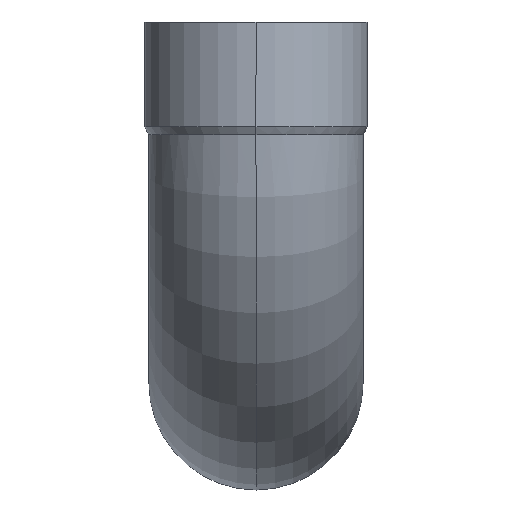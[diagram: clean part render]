
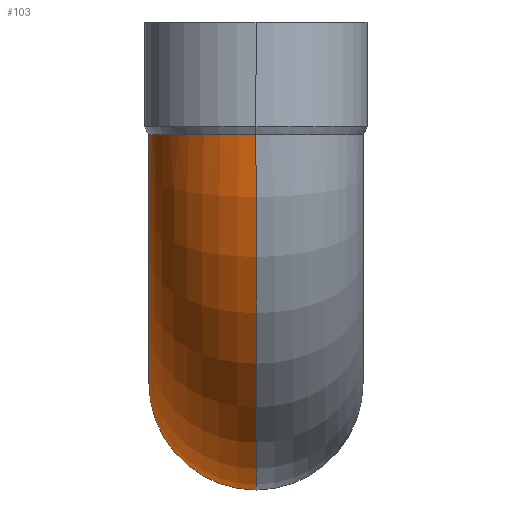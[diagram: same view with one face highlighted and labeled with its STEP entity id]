
A CAD part, left-side view. The second image highlights one B-rep face of the part: STEP entity #103.
In plain terms, the highlighted toroidal (fillet/blend) face has major radius 91.3 mm and minor radius 38 mm.
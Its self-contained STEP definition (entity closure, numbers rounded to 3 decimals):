
#44=CARTESIAN_POINT('',(22.035,0.,0.0));
#45=DIRECTION('',(0.0,-1.0,0.0));
#46=DIRECTION('',(0.0,0.0,-1.0));
#47=AXIS2_PLACEMENT_3D('',#44,#45,#46);
#48=TOROIDAL_SURFACE('',#47,91.3,38.0);
#49=CARTESIAN_POINT('',(-107.224,0.,-3.272));
#50=VERTEX_POINT('',#49);
#51=CARTESIAN_POINT('',(22.035,0.,-129.3));
#52=VERTEX_POINT('',#51);
#53=CARTESIAN_POINT('',(22.035,0.,0.0));
#54=DIRECTION('',(0.0,-1.0,0.0));
#55=DIRECTION('',(0.0,0.0,-1.0));
#56=AXIS2_PLACEMENT_3D('',#53,#54,#55);
#57=CIRCLE('',#56,129.3);
#58=EDGE_CURVE('',#50,#52,#57,.T.);
#59=ORIENTED_EDGE('',*,*,#58,.F.);
#60=CARTESIAN_POINT('',(-31.178,0.,-3.049));
#61=VERTEX_POINT('',#60);
#62=CARTESIAN_POINT('',(-107.224,0.,-3.272));
#63=CARTESIAN_POINT('',(-107.224,2.801,-3.272));
#64=CARTESIAN_POINT('',(-106.914,5.593,-3.271));
#65=CARTESIAN_POINT('',(-105.686,11.059,-3.27));
#66=CARTESIAN_POINT('',(-104.772,13.716,-3.268));
#67=CARTESIAN_POINT('',(-101.457,20.721,-3.263));
#68=CARTESIAN_POINT('',(-98.487,24.738,-3.259));
#69=CARTESIAN_POINT('',(-91.173,31.409,-3.247));
#70=CARTESIAN_POINT('',(-86.898,33.998,-3.239));
#71=CARTESIAN_POINT('',(-77.594,37.394,-3.22));
#72=CARTESIAN_POINT('',(-72.654,38.166,-3.209));
#73=CARTESIAN_POINT('',(-62.753,37.774,-3.183));
#74=CARTESIAN_POINT('',(-57.888,36.613,-3.168));
#75=CARTESIAN_POINT('',(-48.879,32.492,-3.137));
#76=CARTESIAN_POINT('',(-44.821,29.573,-3.12));
#77=CARTESIAN_POINT('',(-38.056,22.347,-3.088));
#78=CARTESIAN_POINT('',(-35.413,18.112,-3.074));
#79=CARTESIAN_POINT('',(-32.016,9.178,-3.054));
#80=CARTESIAN_POINT('',(-31.178,4.607,-3.049));
#81=CARTESIAN_POINT('',(-31.178,0.,-3.049));
#82=B_SPLINE_CURVE_WITH_KNOTS('',3,(#62,#63,#64,#65,#66,#67,#68,#69,#70,#71,#72,#73,#74,#75,#76,#77,#78,#79,#80,#81),.UNSPECIFIED.,.F.,.U.,(4,2,2,2,2,2,2,2,2,4),(-23.955,-23.114,-22.274,-20.789,-19.304,-17.818,-16.332,-14.846,-13.362,-11.979),.UNSPECIFIED.);
#83=EDGE_CURVE('',#50,#61,#82,.T.);
#84=ORIENTED_EDGE('',*,*,#83,.T.);
#85=CARTESIAN_POINT('',(22.035,0.,-53.3));
#86=VERTEX_POINT('',#85);
#87=CARTESIAN_POINT('',(22.035,0.,0.0));
#88=DIRECTION('',(0.0,1.0,0.0));
#89=DIRECTION('',(0.0,0.0,-1.0));
#90=AXIS2_PLACEMENT_3D('',#87,#88,#89);
#91=CIRCLE('',#90,53.3);
#92=EDGE_CURVE('',#86,#61,#91,.T.);
#93=ORIENTED_EDGE('',*,*,#92,.F.);
#94=CARTESIAN_POINT('',(22.035,0.,-91.3));
#95=DIRECTION('',(-1.0,0.0,0.0));
#96=DIRECTION('',(0.0,0.0,-1.0));
#97=AXIS2_PLACEMENT_3D('',#94,#95,#96);
#98=CIRCLE('',#97,38.0);
#99=EDGE_CURVE('',#86,#52,#98,.T.);
#100=ORIENTED_EDGE('',*,*,#99,.T.);
#101=EDGE_LOOP('',(#59,#84,#93,#100));
#102=FACE_OUTER_BOUND('',#101,.T.);
#103=ADVANCED_FACE('',(#102),#48,.T.);
